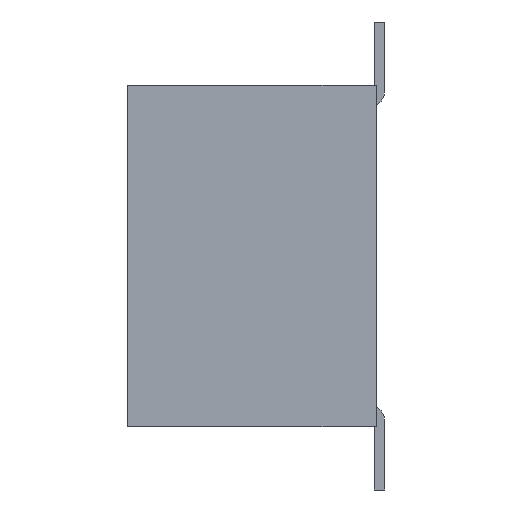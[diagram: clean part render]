
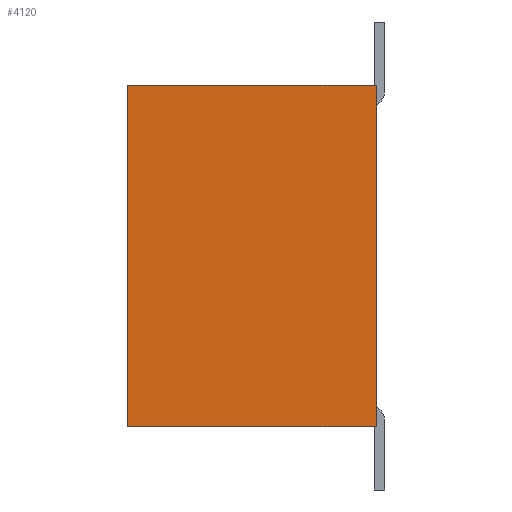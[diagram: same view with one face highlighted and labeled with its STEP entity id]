
A CAD part, left-side view. The second image highlights one B-rep face of the part: STEP entity #4120.
In plain terms, the highlighted planar face has unit normal (-1, 0, 0).
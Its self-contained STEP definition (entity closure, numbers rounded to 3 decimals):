
#180 = VERTEX_POINT ( 'NONE', #1598 ) ;
#223 = VECTOR ( 'NONE', #5844, 1000. ) ;
#354 = DIRECTION ( 'NONE',  ( 0., -1., 0. ) ) ;
#1030 = VECTOR ( 'NONE', #354, 1000. ) ;
#1598 = CARTESIAN_POINT ( 'NONE',  ( -1.606, 2.863, -4.05 ) ) ;
#2079 = VECTOR ( 'NONE', #4000, 1000. ) ;
#2128 = CARTESIAN_POINT ( 'NONE',  ( -1.606, -3.037, 4.05 ) ) ;
#2307 = VECTOR ( 'NONE', #3183, 1000. ) ;
#2380 = ORIENTED_EDGE ( 'NONE', *, *, #6381, .T. ) ;
#3183 = DIRECTION ( 'NONE',  ( 0., 0., -1. ) ) ;
#3231 = AXIS2_PLACEMENT_3D ( 'NONE', #5951, #3809, #3275 ) ;
#3275 = DIRECTION ( 'NONE',  ( 0., 1., 0. ) ) ;
#3385 = LINE ( 'NONE', #6752, #2079 ) ;
#3679 = CARTESIAN_POINT ( 'NONE',  ( -1.606, -3.037, -4.05 ) ) ;
#3741 = FACE_OUTER_BOUND ( 'NONE', #4469, .T. ) ;
#3809 = DIRECTION ( 'NONE',  ( 1., 0., 0. ) ) ;
#4000 = DIRECTION ( 'NONE',  ( 0., -1., 0. ) ) ;
#4032 = CARTESIAN_POINT ( 'NONE',  ( -1.606, 2.863, 4.05 ) ) ;
#4120 = ADVANCED_FACE ( 'NONE', ( #3741 ), #7071, .F. ) ;
#4375 = ORIENTED_EDGE ( 'NONE', *, *, #5733, .T. ) ;
#4469 = EDGE_LOOP ( 'NONE', ( #4375, #4989, #5144, #2380 ) ) ;
#4715 = VERTEX_POINT ( 'NONE', #2128 ) ;
#4989 = ORIENTED_EDGE ( 'NONE', *, *, #5960, .F. ) ;
#5112 = EDGE_CURVE ( 'NONE', #6271, #4715, #5290, .T. ) ;
#5144 = ORIENTED_EDGE ( 'NONE', *, *, #5112, .F. ) ;
#5290 = LINE ( 'NONE', #6956, #1030 ) ;
#5343 = CARTESIAN_POINT ( 'NONE',  ( -1.606, 2.863, 4.05 ) ) ;
#5453 = LINE ( 'NONE', #7122, #2307 ) ;
#5492 = VERTEX_POINT ( 'NONE', #3679 ) ;
#5733 = EDGE_CURVE ( 'NONE', #180, #5492, #3385, .T. ) ;
#5844 = DIRECTION ( 'NONE',  ( 0., 0., -1. ) ) ;
#5951 = CARTESIAN_POINT ( 'NONE',  ( -1.606, 2.863, 4.05 ) ) ;
#5960 = EDGE_CURVE ( 'NONE', #4715, #5492, #5453, .T. ) ;
#6271 = VERTEX_POINT ( 'NONE', #4032 ) ;
#6381 = EDGE_CURVE ( 'NONE', #6271, #180, #6499, .T. ) ;
#6499 = LINE ( 'NONE', #5343, #223 ) ;
#6752 = CARTESIAN_POINT ( 'NONE',  ( -1.606, 2.863, -4.05 ) ) ;
#6956 = CARTESIAN_POINT ( 'NONE',  ( -1.606, 2.863, 4.05 ) ) ;
#7071 = PLANE ( 'NONE',  #3231 ) ;
#7122 = CARTESIAN_POINT ( 'NONE',  ( -1.606, -3.037, 4.05 ) ) ;
